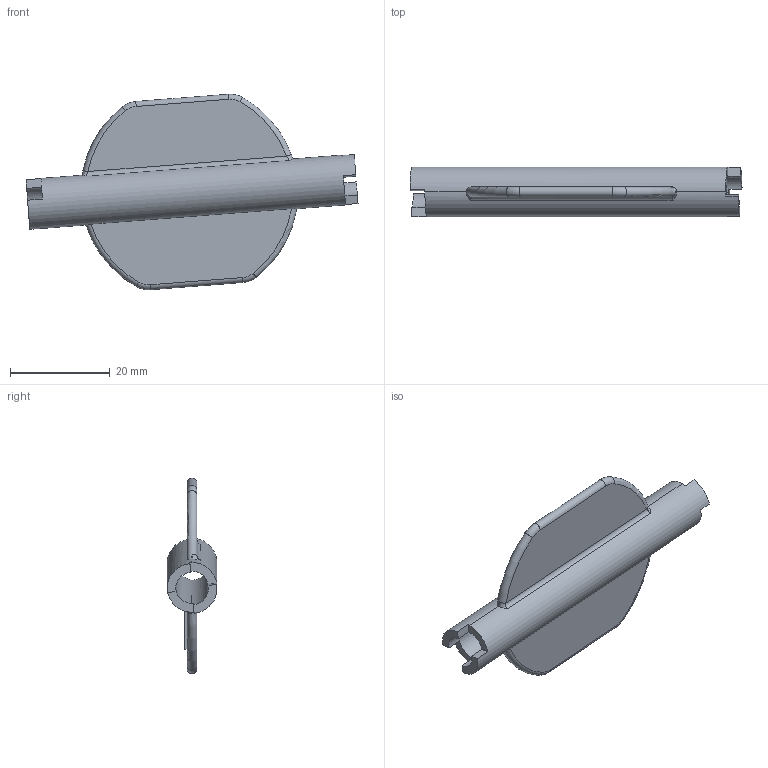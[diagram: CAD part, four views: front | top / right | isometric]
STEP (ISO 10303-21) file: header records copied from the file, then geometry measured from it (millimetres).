
FILE_DESCRIPTION((''),'2;1');
FILE_NAME('0000237102_PRT','2025-11-12T18:33:17',('Wyndorps'),(''),'CREO PARAMETRIC BY PTC INC, 2025010','CREO PARAMETRIC BY PTC INC, 2025010','');
FILE_SCHEMA(('CONFIG_CONTROL_DESIGN'));
Length unit declared in the file: millimetre
Products named in the file (1): 0000237102_PRT
Bounding box: 66.49 x 10 x 39.14 mm (x, y, z)
Volume: 4800 mm3; surface area: 5349.6 mm2
Topology: 1 solids, 1 shells, 89 faces, 241 edges, 158 vertices
Faces by surface type: plane 53, extrusion 12, cylinder 12, torus 8, bspline 4
Entity records: 3226 total; most frequent: CARTESIAN_POINT 989, ORIENTED_EDGE 482, DIRECTION 411, EDGE_CURVE 241, VERTEX_POINT 158, VECTOR 153, LINE 141, AXIS2_PLACEMENT_3D 129
